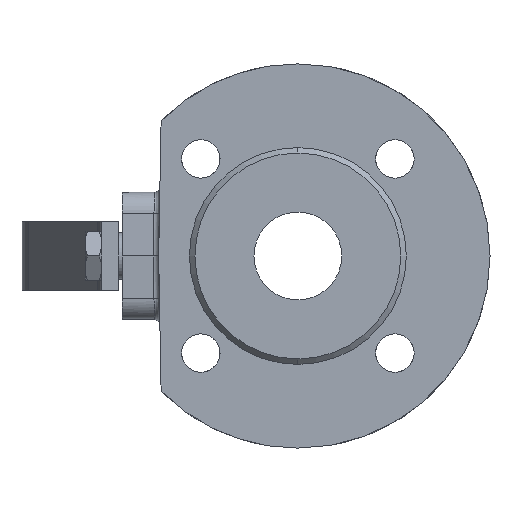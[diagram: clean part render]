
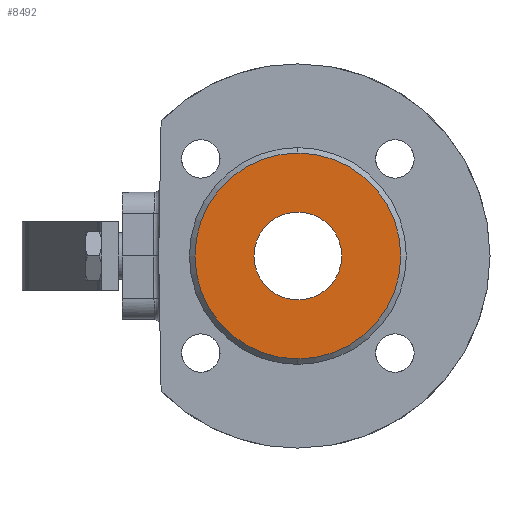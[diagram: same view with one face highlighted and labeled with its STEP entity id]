
A CAD part, left-side view. The second image highlights one B-rep face of the part: STEP entity #8492.
In plain terms, the highlighted planar face has unit normal (-1, 0, 0).
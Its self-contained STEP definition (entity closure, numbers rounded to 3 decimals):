
#2757 = DIRECTION ( 'NONE',  ( 0., 0., 1. ) ) ;
#2758 = DIRECTION ( 'NONE',  ( -1., 0., 0. ) ) ;
#2759 = CARTESIAN_POINT ( 'NONE',  ( -27.5, 0., 0. ) ) ;
#2760 = AXIS2_PLACEMENT_3D ( 'NONE', #2759, #2758, #2757 ) ;
#2761 = DIRECTION ( 'NONE',  ( 0., 0., -1. ) ) ;
#2762 = DIRECTION ( 'NONE',  ( 1., 0., 0. ) ) ;
#2763 = CARTESIAN_POINT ( 'NONE',  ( -27.5, 16., 0. ) ) ;
#2764 = CIRCLE ( 'NONE', #2760, 37.5 ) ;
#2765 = AXIS2_PLACEMENT_3D ( 'NONE', #2763, #2762, #2761 ) ;
#2766 = PLANE ( 'NONE',  #2765 ) ;
#2767 = FACE_OUTER_BOUND ( 'NONE', #8486, .T. ) ;
#2768 = FACE_BOUND ( 'NONE', #8541, .T. ) ;
#2769 = DIRECTION ( 'NONE',  ( 0., 0., 1. ) ) ;
#2770 = DIRECTION ( 'NONE',  ( -1., 0., 0. ) ) ;
#2771 = CARTESIAN_POINT ( 'NONE',  ( -27.5, 0., 0. ) ) ;
#2772 = AXIS2_PLACEMENT_3D ( 'NONE', #2771, #2770, #2769 ) ;
#2773 = CIRCLE ( 'NONE', #2772, 16. ) ;
#5548 = VERTEX_POINT ( 'NONE', #10194 ) ;
#5555 = EDGE_CURVE ( 'NONE', #5548, #5566, #10220, .T. ) ;
#5563 = EDGE_CURVE ( 'NONE', #5579, #5568, #10203, .T. ) ;
#5566 = VERTEX_POINT ( 'NONE', #10256 ) ;
#5568 = VERTEX_POINT ( 'NONE', #10248 ) ;
#5579 = VERTEX_POINT ( 'NONE', #10235 ) ;
#8480 = ORIENTED_EDGE ( 'NONE', *, *, #8488, .F. ) ;
#8482 = ORIENTED_EDGE ( 'NONE', *, *, #8496, .T. ) ;
#8484 = ORIENTED_EDGE ( 'NONE', *, *, #5555, .F. ) ;
#8486 = EDGE_LOOP ( 'NONE', ( #8482, #8490 ) ) ;
#8488 = EDGE_CURVE ( 'NONE', #5566, #5548, #2773, .T. ) ;
#8490 = ORIENTED_EDGE ( 'NONE', *, *, #5563, .T. ) ;
#8492 = ADVANCED_FACE ( 'NONE', ( #2768, #2767 ), #2766, .F. ) ;
#8496 = EDGE_CURVE ( 'NONE', #5568, #5579, #2764, .T. ) ;
#8541 = EDGE_LOOP ( 'NONE', ( #8480, #8484 ) ) ;
#10194 = CARTESIAN_POINT ( 'NONE',  ( -27.5, 0., -16. ) ) ;
#10199 = DIRECTION ( 'NONE',  ( 0., 0., 1. ) ) ;
#10200 = DIRECTION ( 'NONE',  ( -1., 0., 0. ) ) ;
#10201 = CARTESIAN_POINT ( 'NONE',  ( -27.5, 0., 0. ) ) ;
#10202 = AXIS2_PLACEMENT_3D ( 'NONE', #10201, #10200, #10199 ) ;
#10203 = CIRCLE ( 'NONE', #10202, 37.5 ) ;
#10216 = DIRECTION ( 'NONE',  ( 0., 0., 1. ) ) ;
#10217 = DIRECTION ( 'NONE',  ( -1., 0., 0. ) ) ;
#10218 = CARTESIAN_POINT ( 'NONE',  ( -27.5, 0., 0. ) ) ;
#10219 = AXIS2_PLACEMENT_3D ( 'NONE', #10218, #10217, #10216 ) ;
#10220 = CIRCLE ( 'NONE', #10219, 16. ) ;
#10235 = CARTESIAN_POINT ( 'NONE',  ( -27.5, 0., 37.5 ) ) ;
#10248 = CARTESIAN_POINT ( 'NONE',  ( -27.5, 0., -37.5 ) ) ;
#10256 = CARTESIAN_POINT ( 'NONE',  ( -27.5, 0., 16. ) ) ;
